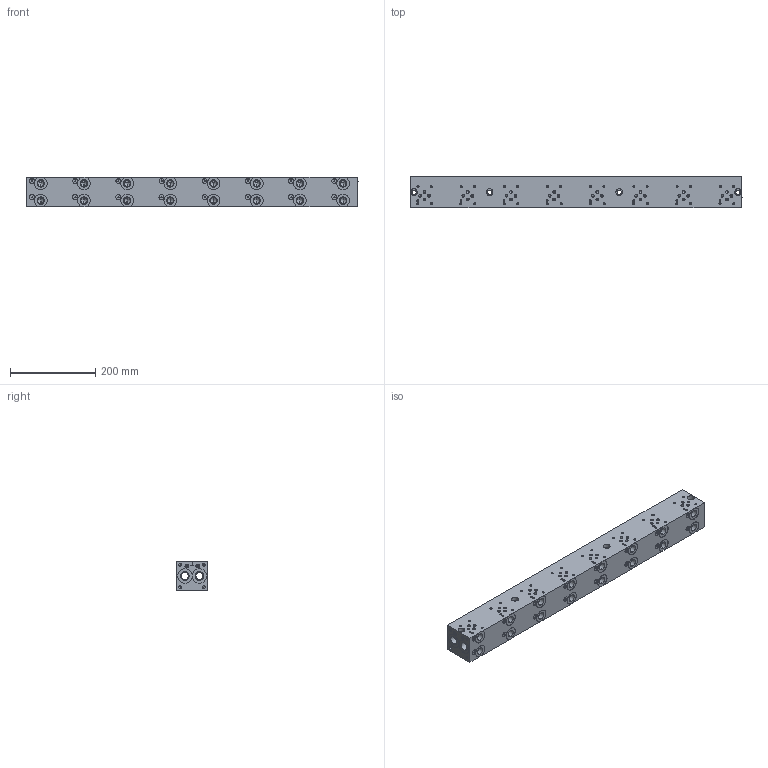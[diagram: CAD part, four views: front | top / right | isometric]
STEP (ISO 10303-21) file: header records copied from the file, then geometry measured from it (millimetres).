
FILE_DESCRIPTION (( 'STEP AP203' ), '1' );
FILE_NAME ('BM-ASP03S4-08-1_Z.STEP', '2015-01-06T15:44:32', ( '' ), ( '' ), 'SwSTEP 2.0', 'SolidWorks 2014', '' );
FILE_SCHEMA (( 'CONFIG_CONTROL_DESIGN' ));
Length unit declared in the file: inch
Products named in the file (1): BM-ASP03S4-08-1_Z
Bounding box: 781.05 x 74.93 x 69.85 mm (x, y, z)
Volume: 3584864.5 mm3; surface area: 376731.8 mm2
Topology: 1 solids, 1 shells, 1028 faces, 2630 edges, 1612 vertices
Faces by surface type: cylinder 414, plane 346, cone 184, bspline 84
Entity records: 37151 total; most frequent: CARTESIAN_POINT 13127, ORIENTED_EDGE 4940, DIRECTION 4798, EDGE_CURVE 2470, AXIS2_PLACEMENT_3D 1747, VERTEX_POINT 1612, VECTOR 1304, LINE 1304
